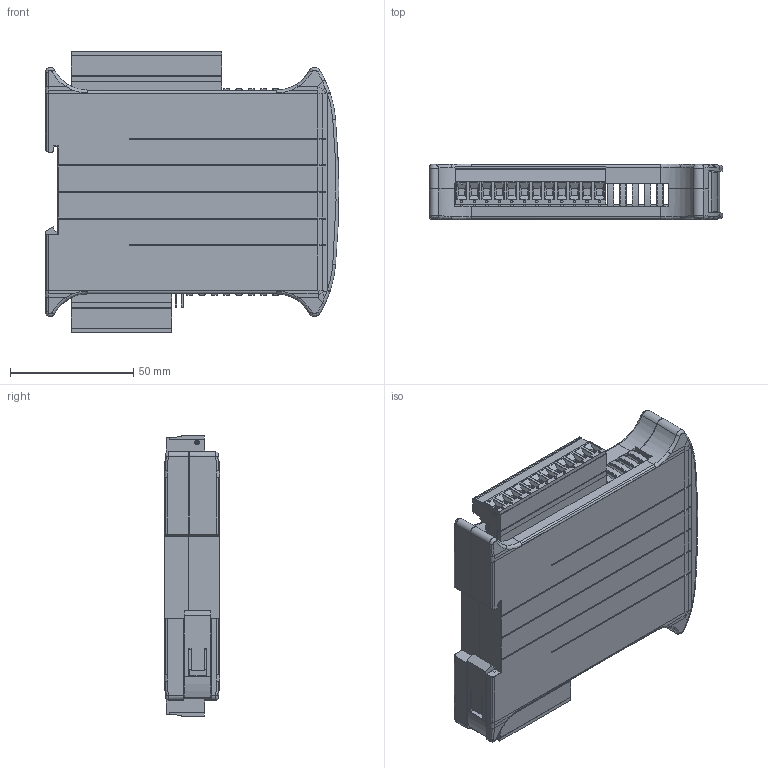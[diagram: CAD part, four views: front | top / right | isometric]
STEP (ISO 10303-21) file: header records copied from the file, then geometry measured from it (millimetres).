
FILE_DESCRIPTION (( 'STEP AP203' ), '1' );
FILE_NAME ('INF1.STEP', '2021-11-10T18:33:10', ( '' ), ( '' ), 'SwSTEP 2.0', 'SolidWorks 2019', '' );
FILE_SCHEMA (( 'CONFIG_CONTROL_DESIGN' ));
Products named in the file (1): INF1
Bounding box: 119.08 x 22.5 x 114 mm (x, y, z)
Volume: 89244.7 mm3; surface area: 95974.5 mm2
Topology: 17 solids, 17 shells, 4681 faces, 12107 edges, 7662 vertices
Faces by surface type: plane 2738, cylinder 1400, torus 263, cone 162, bspline 78, sphere 40
Entity records: 149668 total; most frequent: CARTESIAN_POINT 35660, ORIENTED_EDGE 24170, DIRECTION 23245, EDGE_CURVE 12085, VECTOR 7925, LINE 7925, VERTEX_POINT 7662, AXIS2_PLACEMENT_3D 7660
